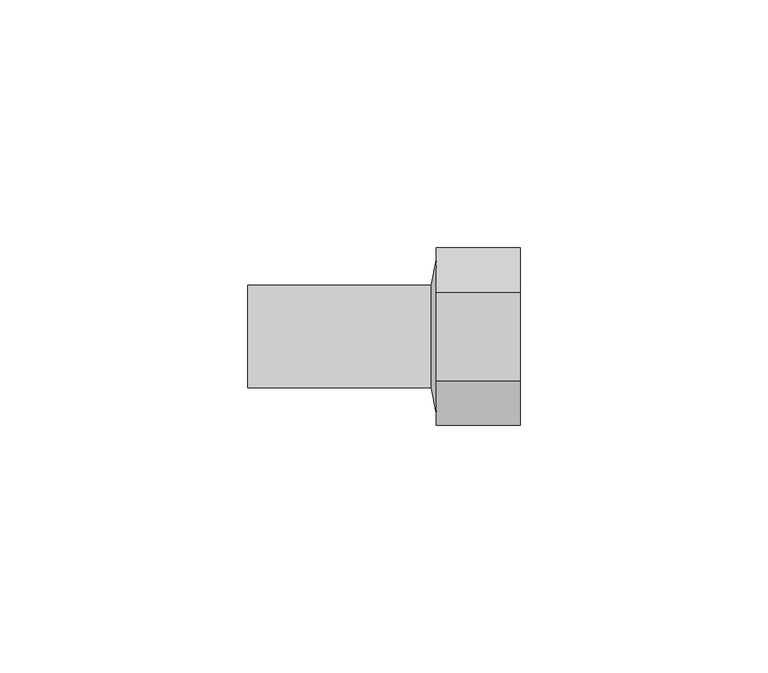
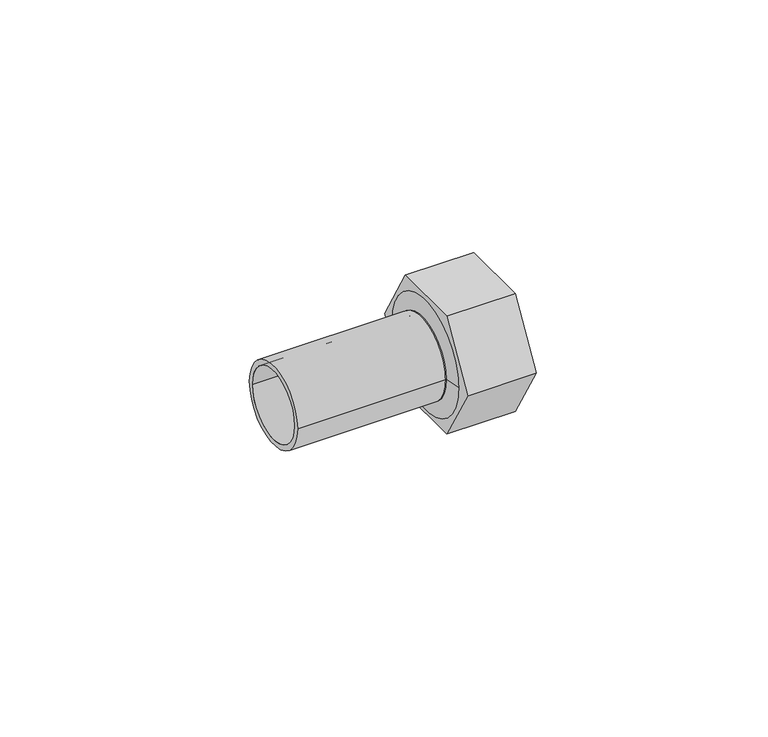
"""IFC4 building model written with IfcOpenShell, lengths in millimetres: pipe fitting geometry, VALTEC_VTi.907.I_Вставка с внутренней резьбой_Нержавеющая сталь : VTi.907.I."""

from ifc_helpers import new_model, si_unit, point, frame, origin, origin_2d, place, context, project, spatial, polyline, circle_curve, trimmed, segment, composite_curve, outline, extrude, source, transform, mapped, element, save
from ifc_brep_helpers import plane_surface, revolved_surface, advanced_brep


def pipe_fitting_7fd2e9de(model_context):
    return source(origin(), model_context, "Body", "SolidModel", [
        extrude(outline(polyline([(-17.8978583, 0.0), (-8.9489292, 15.5), (8.9489292, 15.5), (17.8978583, 0.0), (8.9489292, -15.5), (-8.9489292, -15.5), (-17.8978583, 0.0)]), holes=[composite_curve([segment(trimmed(circle_curve(origin_2d(), 10.0), [point((10.0, 0.0))], [point((-10.0, 0.0))], True, "CARTESIAN"), True, "CONTINUOUS"), segment(trimmed(circle_curve(origin_2d(), 10.0), [point((-10.0, 0.0))], [point((10.0, 0.0))], True, "CARTESIAN"), True, "CONTINUOUS")], self_intersect=False)]), frame((-8.5, 0.0, 0.0), z_axis=(1.0, 0.0, 0.0), x_axis=(0.0, 1.0, 0.0)), (0.0, 0.0, 1.0), 17.0),
        advanced_brep(
        [(-8.5, -15.5, 0.0), (-8.5, 15.5, 0.0), (-9.5, -10.35, 0.0), (-9.5, 10.35, 0.0)],
        [
            (0, 1, circle_curve(frame((-8.5, 0.0, 0.0), z_axis=(1.0, 0.0, 0.0), x_axis=(0.0, -1.0, 0.0)), 15.5)),
            (1, 0, circle_curve(frame((-8.5, 0.0, 0.0), z_axis=(1.0, 0.0, 0.0), x_axis=(0.0, 1.0, 0.0)), 15.5)),
            (2, 3, circle_curve(frame((-9.5, 0.0, 0.0), z_axis=(-1.0, 0.0, 0.0), x_axis=(0.0, 1.0, 0.0)), 10.35)),
            (3, 2, circle_curve(frame((-9.5, 0.0, 0.0), z_axis=(-1.0, 0.0, 0.0), x_axis=(0.0, -1.0, 0.0)), 10.35)),
            (3, 1),
            (0, 2),
        ],
        [
            plane_surface(frame((-8.5, 0.0, 0.0), z_axis=(1.0, 0.0, 0.0), x_axis=(0.0, 0.0, -1.0))),
            plane_surface(frame((-9.5, 0.0, 0.0), z_axis=(-1.0, 0.0, 0.0), x_axis=(0.0, 0.0, -1.0))),
            revolved_surface(polyline([(-9.5, 10.349999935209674, 0.0), (-8.5, 15.5, 0.0)]), (-11.5097087, 0.0, 0.0), (1.0, 0.0, 0.0)),
            revolved_surface(polyline([(-9.5, -10.349999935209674, 0.0), (-8.5, -15.5, 0.0)]), (-11.5097087, 0.0, 0.0), (1.0, 0.0, 0.0)),
        ],
        [
            (0, [[1, 2]]),
            (1, [[3, 4]]),
            (2, [[-4, 5, -1, 6]]),
            (3, [[-3, -6, -2, -5]]),
        ],
    ),
        extrude(outline(composite_curve([segment(trimmed(circle_curve(origin_2d(), 10.35), [point((-10.35, 0.0))], [point((10.35, 0.0))], False, "CARTESIAN"), True, "CONTINUOUS"), segment(trimmed(circle_curve(origin_2d(), 10.35), [point((10.35, 0.0))], [point((-10.35, 0.0))], False, "CARTESIAN"), True, "CONTINUOUS")], self_intersect=False), holes=[composite_curve([segment(trimmed(circle_curve(origin_2d(), 9.0), [point((-9.0, 0.0))], [point((9.0, 0.0))], True, "CARTESIAN"), True, "CONTINUOUS"), segment(trimmed(circle_curve(origin_2d(), 9.0), [point((9.0, 0.0))], [point((-9.0, 0.0))], True, "CARTESIAN"), True, "CONTINUOUS")], self_intersect=False)]), frame((-46.5, 0.0, 0.0), z_axis=(1.0, 0.0, 0.0), x_axis=(0.0, 1.0, 0.0)), (0.0, 0.0, 1.0), 37.0),
    ])


if __name__ == "__main__":
    model = new_model("IFC4")
    model_context = context("Model", 3, world=origin())
    ifc_project = project(units=[si_unit("LENGTHUNIT", "METRE", prefix="MILLI")], contexts=[model_context])
    site = spatial("IfcSite", under=ifc_project)
    building = spatial("IfcBuilding", under=site)
    placement = place(None, origin())
    pipe_fitting_shape = pipe_fitting_7fd2e9de(model_context)
    element("IfcPipeFitting", 1, ObjectType="VALTEC_VTi.907.I_Вставка с внутренней резьбой_Нержавеющая сталь : VTi.907.I", at=placement, inside=building, context=model_context, shape_type="MappedRepresentation", body=[
        mapped(pipe_fitting_shape, transform((0.0, 0.0, 0.0), x_axis=(1.0, 0.0, 0.0), y_axis=(0.0, 1.0, 0.0), z_axis=(0.0, 0.0, 1.0))),
    ])
    save(model, "model.ifc")
